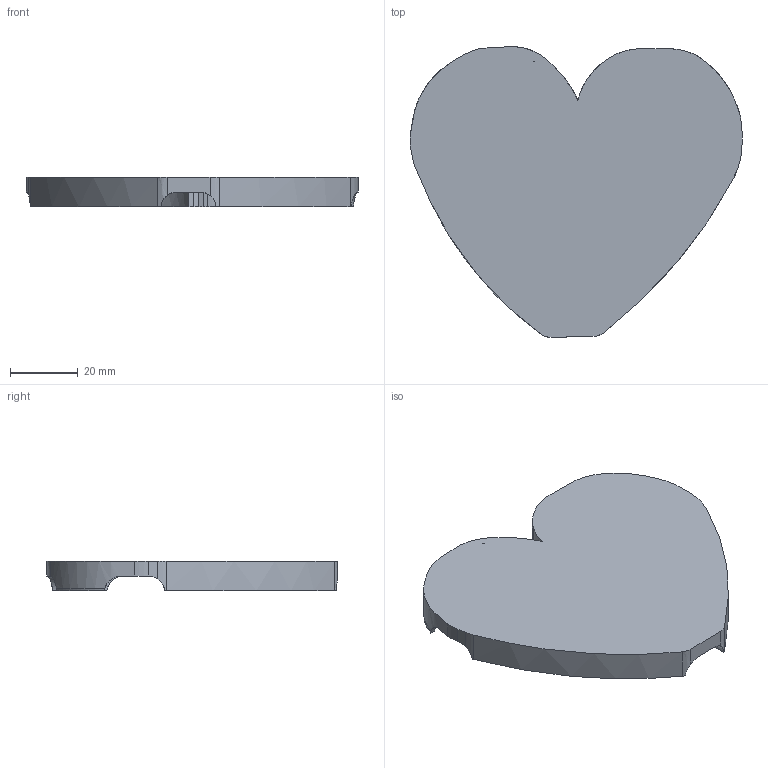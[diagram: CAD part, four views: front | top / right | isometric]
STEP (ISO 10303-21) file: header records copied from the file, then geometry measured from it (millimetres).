
FILE_DESCRIPTION(('HOOPS Exchange Step'),'2;1');
FILE_NAME('/private/var/mobile/Containers/Data/Application/04E281CF-8C7B-4885-B479-013C4A08D58B/tmp/export/temp_export','2026-07-20T14:13:52+05:00',('mobile'),('Shapr3D Limited'),'HOOPS Exchange 2026.3','Shapr3D','Authorized');
FILE_SCHEMA( ('AP242_MANAGED_MODEL_BASED_3D_ENGINEERING_MIM_LF {1 0 10303 442 1 1 4}') );
Length unit declared in the file: millimetre
Products named in the file (1): upper body
Bounding box: 97.73 x 85.6 x 8.75 mm (x, y, z)
Volume: 29093.6 mm3; surface area: 15475.3 mm2
Topology: 1 solids, 1 shells, 77 faces, 226 edges, 151 vertices
Faces by surface type: cylinder 43, bspline 19, plane 15
Entity records: 3806 total; most frequent: CARTESIAN_POINT 1822, ORIENTED_EDGE 452, DIRECTION 361, EDGE_CURVE 226, VERTEX_POINT 151, AXIS2_PLACEMENT_3D 141, CIRCLE 81, EDGE_LOOP 79
